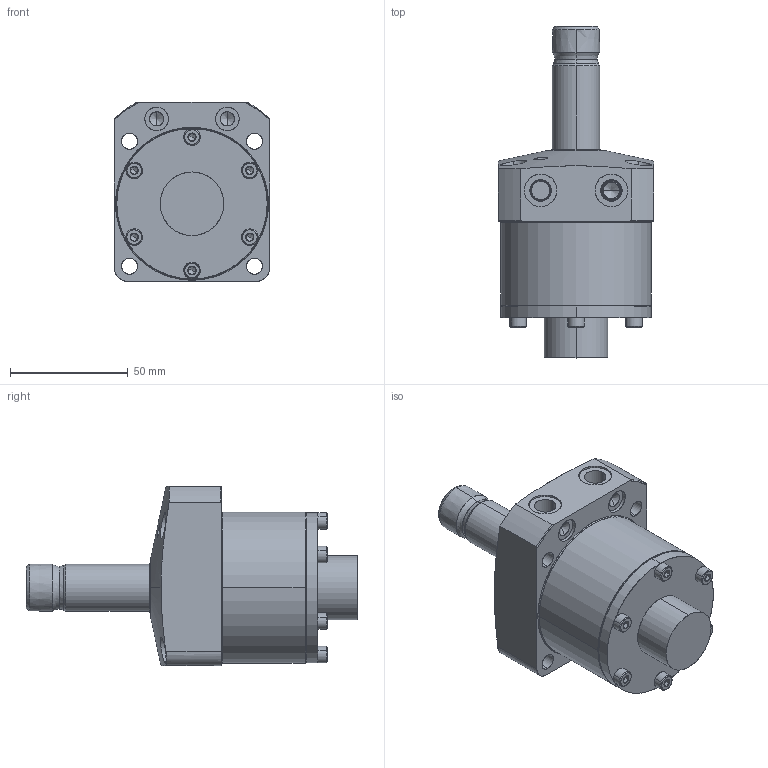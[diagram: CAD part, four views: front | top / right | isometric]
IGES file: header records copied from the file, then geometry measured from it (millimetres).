
Start section: SolidWorks IGES file using analytic representation for surfaces
Global section: file name: L:\電子カタログ-3D_IGES\WHA0500-2AL-F.igs; native system: SolidWorks 2009; preprocessor: SolidWorks 2009; author: D211; date: 100416.113059; units: millimetre
Bounding box: 66 x 140.8 x 76 mm (x, y, z)
Surface area: 45701 mm2 (no closed solid volume)
Topology: 0 solids, 0 shells, 342 faces, 5207 edges, 5189 vertices
Faces by surface type: revolution 207, bspline 135
